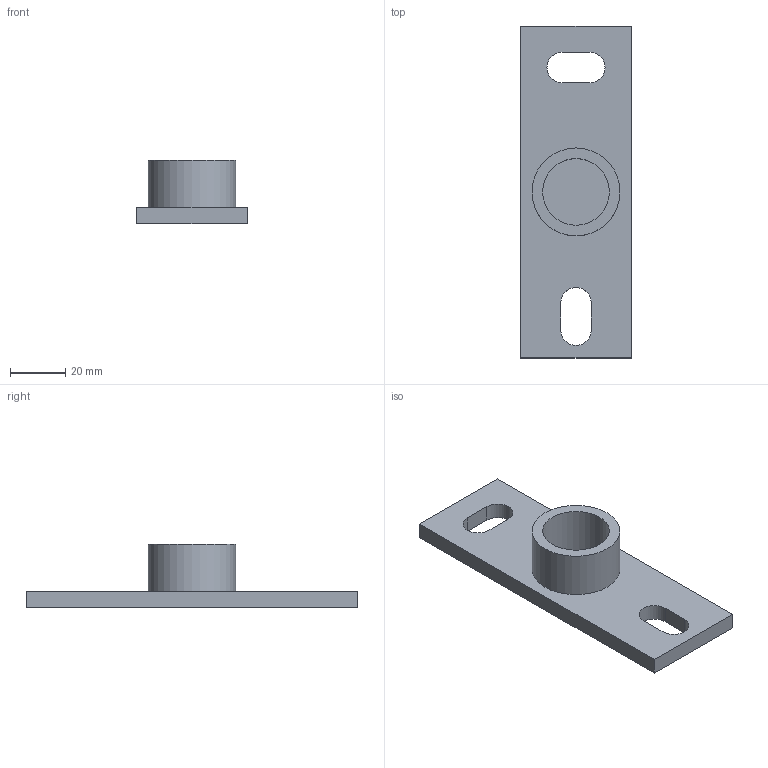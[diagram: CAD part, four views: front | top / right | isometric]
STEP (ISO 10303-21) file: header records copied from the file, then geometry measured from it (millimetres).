
FILE_DESCRIPTION(/* description */ (''),/* implementation_level */ '2;1');
FILE_NAME(/* name */ 'H:\Geberit-Teile\Export\GrundPl eckig\stp\362827.stp',/* time_stamp */ '2015-04-15T11:30:08+02:00',/* author */ ('seihe2'),/* organization */ (''),/* preprocessor_version */ 'ST-DEVELOPER v15.2',/* originating_system */ 'Autodesk Inventor 2014',/* authorisation */ '');
FILE_SCHEMA (('AUTOMOTIVE_DESIGN { 1 0 10303 214 3 1 1 }'));
Length unit declared in the file: millimetre
Products named in the file (1): 362827
Bounding box: 40 x 120 x 23 mm (x, y, z)
Volume: 32075.7 mm3; surface area: 14340.9 mm2
Topology: 1 solids, 1 shells, 18 faces, 42 edges, 28 vertices
Faces by surface type: plane 12, cylinder 6
Full cylindrical faces by diameter (mm): 24.117 x1, 31.8 x1
Entity records: 555 total; most frequent: DIRECTION 90, CARTESIAN_POINT 87, ORIENTED_EDGE 80, EDGE_CURVE 40, AXIS2_PLACEMENT_3D 31, LINE 28, VECTOR 28, VERTEX_POINT 28
